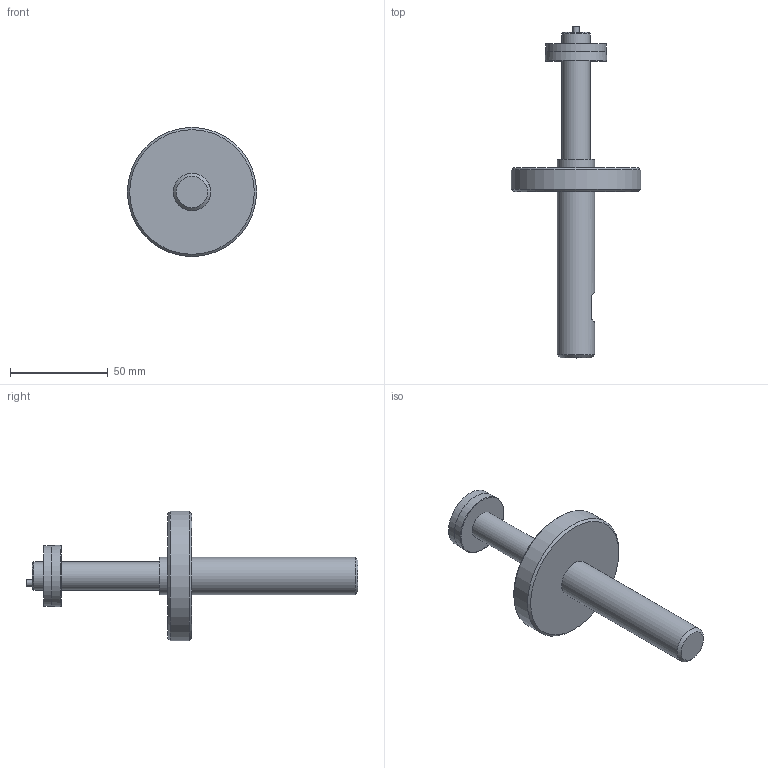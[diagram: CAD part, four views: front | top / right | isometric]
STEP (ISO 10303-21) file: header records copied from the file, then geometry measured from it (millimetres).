
FILE_DESCRIPTION (( 'STEP AP203' ), '1' );
FILE_NAME ('AF56-SIMPLE - AF56-14.50-31.50M.step', '2025-01-22T13:31:43', ( '' ), ( '' ), 'SwSTEP 2.0', 'SolidWorks 2024', '' );
FILE_SCHEMA (( 'CONFIG_CONTROL_DESIGN' ));
Length unit declared in the file: inch
Products named in the file (1): AF56-SIMPLE - AF56-14.50-31.50M
Bounding box: 66.04 x 169.8 x 66.04 mm (x, y, z)
Volume: 82628.2 mm3; surface area: 19010.9 mm2
Topology: 1 solids, 1 shells, 24 faces, 40 edges, 25 vertices
Faces by surface type: plane 11, cylinder 7, cone 5, torus 1
Full cylindrical faces by diameter (mm): 3.175 x1, 14.376 x2, 19.05 x2, 30.994 x1, 66.04 x1
Entity records: 569 total; most frequent: DIRECTION 94, CARTESIAN_POINT 81, ORIENTED_EDGE 52, AXIS2_PLACEMENT_3D 45, EDGE_LOOP 44, FACE_OUTER_BOUND 32, EDGE_CURVE 26, ADVANCED_FACE 24
